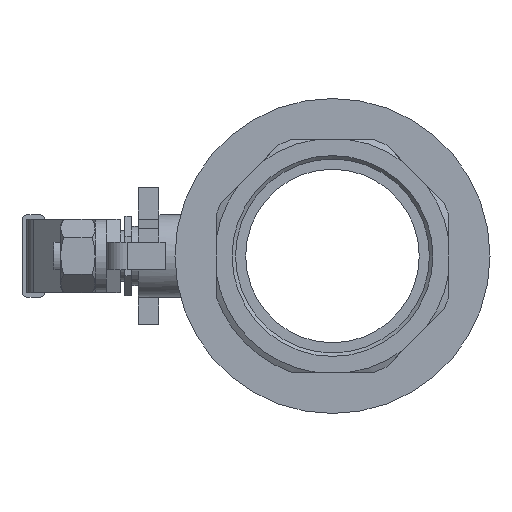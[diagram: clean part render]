
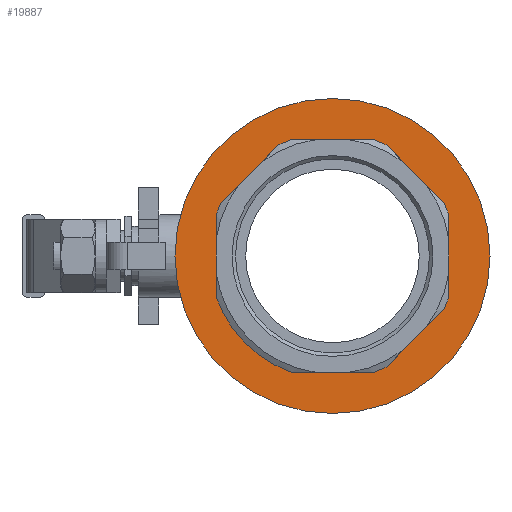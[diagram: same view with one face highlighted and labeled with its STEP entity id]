
A CAD part, left-side view. The second image highlights one B-rep face of the part: STEP entity #19887.
In plain terms, the highlighted planar face has unit normal (-1, 0, 0).
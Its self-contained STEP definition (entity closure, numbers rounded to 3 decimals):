
#168=FACE_BOUND('',#3218,.T.);
#1205=PLANE('',#20986);
#2175=FACE_OUTER_BOUND('',#3217,.T.);
#3217=EDGE_LOOP('',(#17801));
#3218=EDGE_LOOP('',(#17802,#17803,#17804,#17805,#17806,#17807,#17808,#17809,
#17810,#17811,#17812,#17813,#17814,#17815));
#5485=LINE('',#32261,#7776);
#5489=LINE('',#32268,#7780);
#5494=LINE('',#32279,#7785);
#5501=LINE('',#32295,#7792);
#5510=LINE('',#32401,#7801);
#5511=LINE('',#32409,#7802);
#5512=LINE('',#32411,#7803);
#7776=VECTOR('',#25331,10.);
#7780=VECTOR('',#25337,10.);
#7785=VECTOR('',#25348,10.);
#7792=VECTOR('',#25365,10.);
#7801=VECTOR('',#25402,10.);
#7802=VECTOR('',#25417,10.);
#7803=VECTOR('',#25420,10.);
#7977=CIRCLE('',#20953,54.028);
#7978=CIRCLE('',#20957,54.028);
#7979=CIRCLE('',#20960,54.028);
#7980=CIRCLE('',#20962,54.028);
#7988=CIRCLE('',#20979,54.028);
#7989=CIRCLE('',#20981,54.028);
#7990=CIRCLE('',#20983,54.028);
#7991=CIRCLE('',#20987,69.);
#9755=VERTEX_POINT('',#32251);
#9756=VERTEX_POINT('',#32253);
#9757=VERTEX_POINT('',#32258);
#9758=VERTEX_POINT('',#32260);
#9759=VERTEX_POINT('',#32265);
#9760=VERTEX_POINT('',#32267);
#9761=VERTEX_POINT('',#32271);
#9762=VERTEX_POINT('',#32273);
#9763=VERTEX_POINT('',#32278);
#9764=VERTEX_POINT('',#32282);
#9765=VERTEX_POINT('',#32284);
#9766=VERTEX_POINT('',#32288);
#9767=VERTEX_POINT('',#32290);
#9775=VERTEX_POINT('',#32399);
#9776=VERTEX_POINT('',#32413);
#12417=EDGE_CURVE('',#9755,#9756,#7977,.T.);
#12421=EDGE_CURVE('',#9757,#9758,#5485,.T.);
#12425=EDGE_CURVE('',#9759,#9760,#5489,.T.);
#12428=EDGE_CURVE('',#9761,#9762,#7978,.T.);
#12431=EDGE_CURVE('',#9762,#9763,#5494,.T.);
#12434=EDGE_CURVE('',#9764,#9765,#7979,.T.);
#12437=EDGE_CURVE('',#9766,#9767,#7980,.T.);
#12440=EDGE_CURVE('',#9767,#9761,#5501,.T.);
#12459=EDGE_CURVE('',#9775,#9755,#5510,.T.);
#12460=EDGE_CURVE('',#9758,#9775,#7988,.T.);
#12461=EDGE_CURVE('',#9760,#9757,#7989,.T.);
#12462=EDGE_CURVE('',#9763,#9759,#7990,.T.);
#12463=EDGE_CURVE('',#9756,#9764,#5511,.T.);
#12464=EDGE_CURVE('',#9765,#9766,#5512,.T.);
#12465=EDGE_CURVE('',#9776,#9776,#7991,.T.);
#17801=ORIENTED_EDGE('',*,*,#12465,.F.);
#17802=ORIENTED_EDGE('',*,*,#12431,.F.);
#17803=ORIENTED_EDGE('',*,*,#12428,.F.);
#17804=ORIENTED_EDGE('',*,*,#12440,.F.);
#17805=ORIENTED_EDGE('',*,*,#12437,.F.);
#17806=ORIENTED_EDGE('',*,*,#12464,.F.);
#17807=ORIENTED_EDGE('',*,*,#12434,.F.);
#17808=ORIENTED_EDGE('',*,*,#12463,.F.);
#17809=ORIENTED_EDGE('',*,*,#12417,.F.);
#17810=ORIENTED_EDGE('',*,*,#12459,.F.);
#17811=ORIENTED_EDGE('',*,*,#12460,.F.);
#17812=ORIENTED_EDGE('',*,*,#12421,.F.);
#17813=ORIENTED_EDGE('',*,*,#12461,.F.);
#17814=ORIENTED_EDGE('',*,*,#12425,.F.);
#17815=ORIENTED_EDGE('',*,*,#12462,.F.);
#19887=ADVANCED_FACE('',(#2175,#168),#1205,.T.);
#20953=AXIS2_PLACEMENT_3D('',#32254,#25324,#25325);
#20957=AXIS2_PLACEMENT_3D('',#32274,#25342,#25343);
#20960=AXIS2_PLACEMENT_3D('',#32285,#25353,#25354);
#20962=AXIS2_PLACEMENT_3D('',#32291,#25359,#25360);
#20979=AXIS2_PLACEMENT_3D('',#32403,#25405,#25406);
#20981=AXIS2_PLACEMENT_3D('',#32405,#25409,#25410);
#20983=AXIS2_PLACEMENT_3D('',#32407,#25413,#25414);
#20986=AXIS2_PLACEMENT_3D('',#32412,#25421,#25422);
#20987=AXIS2_PLACEMENT_3D('',#32414,#25423,#25424);
#25324=DIRECTION('center_axis',(-1.,0.,0.));
#25325=DIRECTION('ref_axis',(0.,0.,1.));
#25331=DIRECTION('',(0.,0.,1.));
#25337=DIRECTION('',(0.,-0.707,0.707));
#25342=DIRECTION('center_axis',(-1.,0.,0.));
#25343=DIRECTION('ref_axis',(0.,0.,1.));
#25348=DIRECTION('',(0.,-1.,0.));
#25353=DIRECTION('center_axis',(-1.,0.,0.));
#25354=DIRECTION('ref_axis',(0.,0.,1.));
#25359=DIRECTION('center_axis',(-1.,0.,0.));
#25360=DIRECTION('ref_axis',(0.,0.,1.));
#25365=DIRECTION('',(0.,0.,-1.));
#25402=DIRECTION('',(0.,0.707,0.707));
#25405=DIRECTION('center_axis',(-1.,0.,0.));
#25406=DIRECTION('ref_axis',(0.,0.,1.));
#25409=DIRECTION('center_axis',(-1.,0.,0.));
#25410=DIRECTION('ref_axis',(0.,0.,1.));
#25413=DIRECTION('center_axis',(-1.,0.,0.));
#25414=DIRECTION('ref_axis',(0.,0.,1.));
#25417=DIRECTION('',(0.,1.,0.));
#25420=DIRECTION('',(0.,0.707,-0.707));
#25421=DIRECTION('center_axis',(-1.,0.,0.));
#25422=DIRECTION('ref_axis',(0.,0.,1.));
#25423=DIRECTION('center_axis',(1.,0.,0.));
#25424=DIRECTION('ref_axis',(0.,1.,0.));
#32251=CARTESIAN_POINT('',(-160.226,-65.476,48.672));
#32253=CARTESIAN_POINT('',(-160.226,-59.855,51.));
#32254=CARTESIAN_POINT('Origin',(-160.226,-42.023,0.));
#32258=CARTESIAN_POINT('',(-160.226,-93.023,-17.833));
#32260=CARTESIAN_POINT('',(-160.226,-93.023,17.833));
#32261=CARTESIAN_POINT('',(-160.226,-93.023,-8.916));
#32265=CARTESIAN_POINT('',(-160.226,-65.476,-48.672));
#32267=CARTESIAN_POINT('',(-160.226,-90.695,-23.453));
#32268=CARTESIAN_POINT('',(-160.226,-71.781,-42.367));
#32271=CARTESIAN_POINT('',(-160.226,8.977,-17.833));
#32273=CARTESIAN_POINT('',(-160.226,-24.19,-51.));
#32274=CARTESIAN_POINT('Origin',(-160.226,-42.023,0.));
#32278=CARTESIAN_POINT('',(-160.226,-59.855,-51.));
#32279=CARTESIAN_POINT('',(-160.226,-33.107,-51.));
#32282=CARTESIAN_POINT('',(-160.226,-24.19,51.));
#32284=CARTESIAN_POINT('',(-160.226,-18.57,48.672));
#32285=CARTESIAN_POINT('Origin',(-160.226,-42.023,0.));
#32288=CARTESIAN_POINT('',(-160.226,6.649,23.453));
#32290=CARTESIAN_POINT('',(-160.226,8.977,17.833));
#32291=CARTESIAN_POINT('Origin',(-160.226,-42.023,0.));
#32295=CARTESIAN_POINT('',(-160.226,8.977,8.916));
#32399=CARTESIAN_POINT('',(-160.226,-90.695,23.453));
#32401=CARTESIAN_POINT('',(-160.226,-84.39,29.758));
#32403=CARTESIAN_POINT('Origin',(-160.226,-42.023,0.));
#32405=CARTESIAN_POINT('Origin',(-160.226,-42.023,0.));
#32407=CARTESIAN_POINT('Origin',(-160.226,-42.023,0.));
#32409=CARTESIAN_POINT('',(-160.226,-50.939,51.));
#32411=CARTESIAN_POINT('',(-160.226,-12.265,42.367));
#32412=CARTESIAN_POINT('Origin',(-160.226,19.727,0.));
#32413=CARTESIAN_POINT('',(-160.226,-111.023,0.));
#32414=CARTESIAN_POINT('Origin',(-160.226,-42.023,0.));
